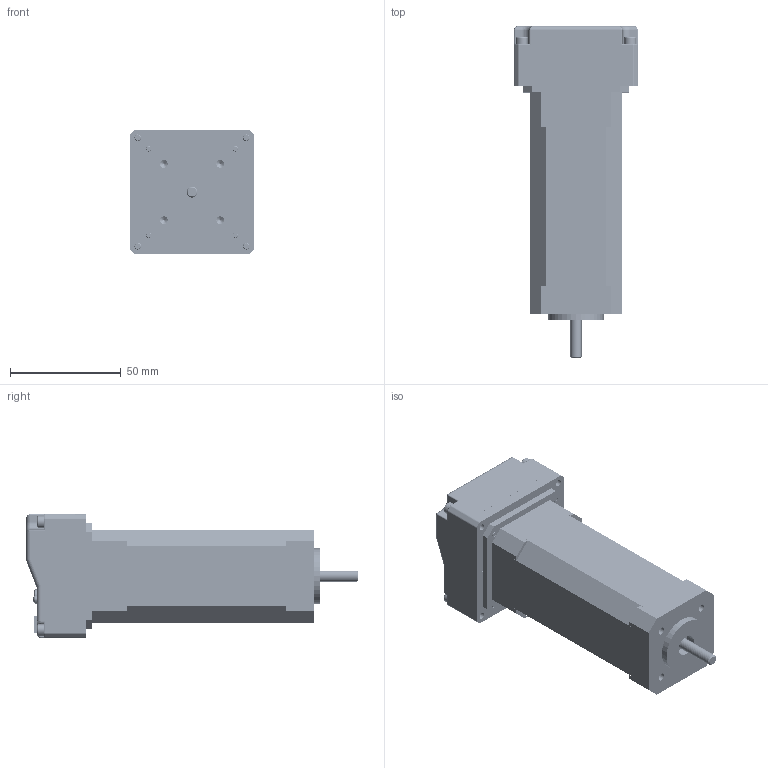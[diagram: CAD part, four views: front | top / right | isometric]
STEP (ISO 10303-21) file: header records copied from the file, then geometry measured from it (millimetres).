
FILE_DESCRIPTION((''),'2;1');
FILE_NAME('DM4D1_NEMA17_ASM','2020-07-29T09:31:48',('Matteo Maccalli'),(''),'CREO PARAMETRIC BY PTC INC, 2019344','CREO PARAMETRIC BY PTC INC, 2019344','');
FILE_SCHEMA(('AUTOMOTIVE_DESIGN { 1 0 10303 214 1 1 1 1 }'));
Products named in the file (90): FRONT_FLANGE_MT17FB; STACK_MT17FB40200M3; REAR_FLANGE_MT17FB; FRONT_SHAFT_MT17FB; MT17FB40200M3_ASM; LMED5067_FLANGE_B; M3X30_SVASATA_CROCE; CONTROFLANGIA_DM4D1; MC-01040; BOARD_1_2_3; BODY_1_2_3; PINSARRAYLR_1_1_2_3; PINSARRAYLR_2_1_2_3; PINSARRAYLR_3_1_2_3; PINSARRAYLR_4_1_2_3; PINSARRAYLR_ASM_1_2_3_ASM; ASSEMBLY_ASM_1_2_3_ASM; GDH02S04-CONDIP_1_2_3_ASM; DIP1_1_2_3_ASM; LFPAK33_SOT1210_NXP_1_2_3; Q304_1_2_3_ASM; MCV1_5-3-G_3_5_1_2_3; PXC_1843619_03_MCV-1-5-3-G-3-_2_ASM; CN5_1_2_3_ASM; 1781120_1_2_3; CN3_1_2_3_ASM; 50229_1_2_3; CN1_1_2_3_ASM; SCE-D8_1_2_3_4_5_6_1; SCE-D8_1_2_3_4_5_6_2; SCE-D8_1_2_3_4_5_6_3; SCE-D8_1_2_3_4_5_6_4; SCE-D8_1_2_3_4_5_6_5; SCE-D8_1_2_3_4_5_6_ASM; CE200_1_2_3_ASM; XTAL_SMD_5X3E2_1_2_3; XT400_1_2_3_ASM; EXTRUDED_1_2_3; 844424768_1_2_3_ASM; W600_1_2_3_ASM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
Assembly tree (165 placements, depth 8):
  DM4D1_NEMA17_ASM
    MT17FB40200M3_ASM
      FRONT_FLANGE_MT17FB
      STACK_MT17FB40200M3
      REAR_FLANGE_MT17FB
      FRONT_SHAFT_MT17FB
    LMED5067_FLANGE_B
    M3X30_SVASATA_CROCE  x4
    CONTROFLANGIA_DM4D1
    MC-01040
    ASM0002_ASM
      PCB_1_2_3_ASM
        BOARD_1_2_3
        DIP1_1_2_3_ASM
          GDH02S04-CONDIP_1_2_3_ASM
            ASSEMBLY_ASM_1_2_3_ASM
              BODY_1_2_3
              PINSARRAYLR_ASM_1_2_3_ASM
                PINSARRAYLR_1_1_2_3
                PINSARRAYLR_2_1_2_3
                PINSARRAYLR_3_1_2_3
                PINSARRAYLR_4_1_2_3
        Q304_1_2_3_ASM
          LFPAK33_SOT1210_NXP_1_2_3
        CN5_1_2_3_ASM
          PXC_1843619_03_MCV-1-5-3-G-3-_2_ASM
            MCV1_5-3-G_3_5_1_2_3
        CN3_1_2_3_ASM
          1781120_1_2_3
        CN1_1_2_3_ASM
          50229_1_2_3
        CE200_1_2_3_ASM
          SCE-D8_1_2_3_4_5_6_ASM
            SCE-D8_1_2_3_4_5_6_1
            SCE-D8_1_2_3_4_5_6_2
            SCE-D8_1_2_3_4_5_6_3
            SCE-D8_1_2_3_4_5_6_4
            SCE-D8_1_2_3_4_5_6_5
        XT400_1_2_3_ASM
          XTAL_SMD_5X3E2_1_2_3
        W600_1_2_3_ASM
          844424768_1_2_3_ASM
            EXTRUDED_1_2_3
        U700_1_2_3_ASM
          PG-DSO-8-7_1_2_3_4_5_6_ASM
            PG-DSO-8-7_1_2_3_4_5_6_1
            PG-DSO-8-7_1_2_3_4_5_6_2
            PG-DSO-8-7_1_2_3_4_5_6_3
            PG-DSO-8-7_1_2_3_4_5_6_4
            PG-DSO-8-7_1_2_3_4_5_6_5
            PG-DSO-8-7_1_2_3_4_5_6_6
            PG-DSO-8-7_1_2_3_4_5_6_7
            PG-DSO-8-7_1_2_3_4_5_6_8
            PG-DSO-8-7_1_2_3_4_5_6_9
            PG-DSO-8-7_1_2_3_4_5_6_10
            PG-DSO-8-7_1_2_3_4_5_6_11
            PG-DSO-8-7_1_2_3_4_5_6_12
            PG-DSO-8-7_1_2_3_4_5_6_13
            PG-DSO-8-7_1_2_3_4_5_6_14
            PG-DSO-8-7_1_2_3_4_5_6_15
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Bounding box: 56 x 150 x 56 mm (x, y, z)
Volume: 207710.6 mm3; surface area: 70258.6 mm2
Topology: 143 solids, 155 shells, 7030 faces, 17473 edges, 10377 vertices
Faces by surface type: plane 2877, cylinder 2733, sphere 600, torus 580, bspline 161, cone 76, extrusion 3
Entity records: 145481 total; most frequent: CARTESIAN_POINT 31607, ORIENTED_EDGE 16464, DIRECTION 16354, PRESENTATION_STYLE_ASSIGNMENT 8431, EDGE_CURVE 8256, STYLED_ITEM 7537, CURVE_STYLE 7312, VECTOR 6158
